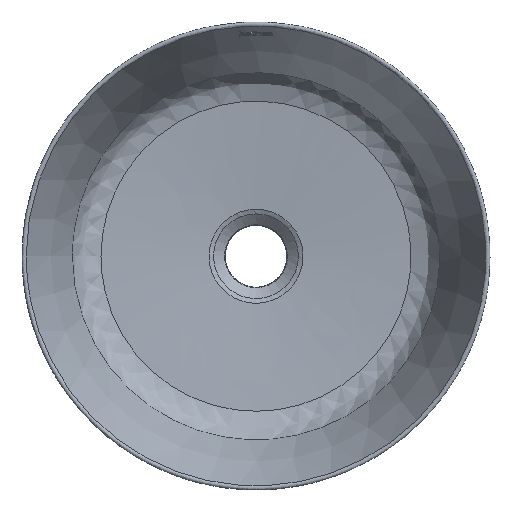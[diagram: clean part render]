
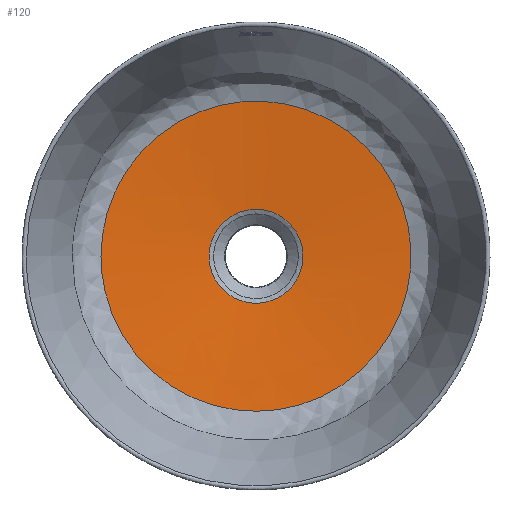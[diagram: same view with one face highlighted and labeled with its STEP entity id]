
A CAD part, top view. The second image highlights one B-rep face of the part: STEP entity #120.
In plain terms, the highlighted free-form (B-spline) face has degree [2, 1] with [9, 2] control points.
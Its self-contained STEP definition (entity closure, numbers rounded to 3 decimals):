
#120=ADVANCED_FACE('',(#233),#1683,.T.);
#233=FACE_OUTER_BOUND('',#346,.T.);
#346=EDGE_LOOP('',(#828,#829,#830,#831));
#828=ORIENTED_EDGE('',*,*,#1125,.F.);
#829=ORIENTED_EDGE('',*,*,#1126,.T.);
#830=ORIENTED_EDGE('',*,*,#1127,.T.);
#831=ORIENTED_EDGE('',*,*,#1126,.F.);
#1125=EDGE_CURVE('',#1576,#1576,#1194,.T.);
#1126=EDGE_CURVE('',#1576,#1577,#1195,.T.);
#1127=EDGE_CURVE('',#1577,#1577,#1196,.T.);
#1194=(
BOUNDED_CURVE()
B_SPLINE_CURVE(2,(#6035,#6036,#6037,#6038,#6039,#6040,#6041,#6042,#6043),
 .UNSPECIFIED.,.T.,.F.)
B_SPLINE_CURVE_WITH_KNOTS((3,2,2,2,3),(-859.131,-644.348,
-429.565,-214.783,0.),.UNSPECIFIED.)
CURVE()
GEOMETRIC_REPRESENTATION_ITEM()
RATIONAL_B_SPLINE_CURVE((1.,0.707,1.,0.707,1.,0.707,
1.,0.707,1.))
REPRESENTATION_ITEM('')
);
#1195=(
BOUNDED_CURVE()
B_SPLINE_CURVE(1,(#6044,#6045),.UNSPECIFIED.,.F.,.F.)
B_SPLINE_CURVE_WITH_KNOTS((2,2),(47.673,128.378),
 .UNSPECIFIED.)
CURVE()
GEOMETRIC_REPRESENTATION_ITEM()
RATIONAL_B_SPLINE_CURVE((1.,1.))
REPRESENTATION_ITEM('')
);
#1196=(
BOUNDED_CURVE()
B_SPLINE_CURVE(2,(#6046,#6047,#6048,#6049,#6050,#6051,#6052,#6053,#6054),
 .UNSPECIFIED.,.T.,.F.)
B_SPLINE_CURVE_WITH_KNOTS((3,2,2,2,3),(-725.005,-543.753,
-362.502,-181.251,0.),.UNSPECIFIED.)
CURVE()
GEOMETRIC_REPRESENTATION_ITEM()
RATIONAL_B_SPLINE_CURVE((1.,0.707,1.,0.707,1.,0.707,
1.,0.707,1.))
REPRESENTATION_ITEM('')
);
#1576=VERTEX_POINT('',#5969);
#1577=VERTEX_POINT('',#5970);
#1683=(
BOUNDED_SURFACE()
B_SPLINE_SURFACE(2,1,((#5629,#5630),(#5631,#5632),(#5633,#5634),(#5635,
#5636),(#5637,#5638),(#5639,#5640),(#5641,#5642),(#5643,#5644),(#5645,#5646)),
 .UNSPECIFIED.,.T.,.F.,.F.)
B_SPLINE_SURFACE_WITH_KNOTS((3,2,2,2,3),(2,2),(0.,181.251,362.502,
543.753,725.005),(47.673,128.378),
 .UNSPECIFIED.)
GEOMETRIC_REPRESENTATION_ITEM()
RATIONAL_B_SPLINE_SURFACE(((1.,1.),(0.707,0.707),
(1.,1.),(0.707,0.707),(1.,1.),(0.707,
0.707),(1.,1.),(0.707,0.707),(1.,1.)))
REPRESENTATION_ITEM('')
SURFACE()
);
#5629=CARTESIAN_POINT('',(2398.549,0.,27.729));
#5630=CARTESIAN_POINT('',(2478.966,0.,20.917));
#5631=CARTESIAN_POINT('',(2398.549,-115.388,27.729));
#5632=CARTESIAN_POINT('',(2478.966,-34.971,20.917));
#5633=CARTESIAN_POINT('',(2513.937,-115.388,27.729));
#5634=CARTESIAN_POINT('',(2513.937,-34.971,20.917));
#5635=CARTESIAN_POINT('',(2629.325,-115.388,27.729));
#5636=CARTESIAN_POINT('',(2548.908,-34.971,20.917));
#5637=CARTESIAN_POINT('',(2629.325,0.,27.729));
#5638=CARTESIAN_POINT('',(2548.908,0.,20.917));
#5639=CARTESIAN_POINT('',(2629.325,115.388,27.729));
#5640=CARTESIAN_POINT('',(2548.908,34.971,20.917));
#5641=CARTESIAN_POINT('',(2513.937,115.388,27.729));
#5642=CARTESIAN_POINT('',(2513.937,34.971,20.917));
#5643=CARTESIAN_POINT('',(2398.549,115.388,27.729));
#5644=CARTESIAN_POINT('',(2478.966,34.971,20.917));
#5645=CARTESIAN_POINT('',(2398.549,0.,27.729));
#5646=CARTESIAN_POINT('',(2478.966,0.,20.917));
#5969=CARTESIAN_POINT('',(2398.549,0.,27.729));
#5970=CARTESIAN_POINT('',(2478.966,0.,20.917));
#6035=CARTESIAN_POINT('',(2398.549,0.,27.729));
#6036=CARTESIAN_POINT('',(2398.549,115.388,27.729));
#6037=CARTESIAN_POINT('',(2513.937,115.388,27.729));
#6038=CARTESIAN_POINT('',(2629.325,115.388,27.729));
#6039=CARTESIAN_POINT('',(2629.325,0.,27.729));
#6040=CARTESIAN_POINT('',(2629.325,-115.388,27.729));
#6041=CARTESIAN_POINT('',(2513.937,-115.388,27.729));
#6042=CARTESIAN_POINT('',(2398.549,-115.388,27.729));
#6043=CARTESIAN_POINT('',(2398.549,0.,27.729));
#6044=CARTESIAN_POINT('',(2398.549,0.,27.729));
#6045=CARTESIAN_POINT('',(2478.966,0.,20.917));
#6046=CARTESIAN_POINT('',(2478.966,0.,20.917));
#6047=CARTESIAN_POINT('',(2478.966,34.971,20.917));
#6048=CARTESIAN_POINT('',(2513.937,34.971,20.917));
#6049=CARTESIAN_POINT('',(2548.908,34.971,20.917));
#6050=CARTESIAN_POINT('',(2548.908,0.,20.917));
#6051=CARTESIAN_POINT('',(2548.908,-34.971,20.917));
#6052=CARTESIAN_POINT('',(2513.937,-34.971,20.917));
#6053=CARTESIAN_POINT('',(2478.966,-34.971,20.917));
#6054=CARTESIAN_POINT('',(2478.966,0.,20.917));
